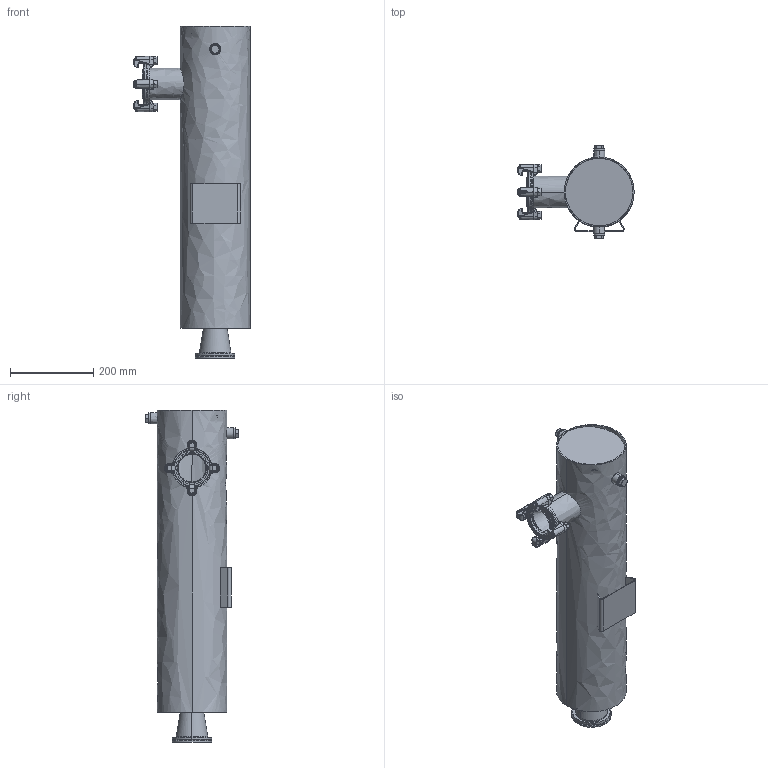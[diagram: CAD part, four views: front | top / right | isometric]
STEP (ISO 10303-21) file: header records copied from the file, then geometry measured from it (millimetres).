
FILE_DESCRIPTION((''),'2;1');
FILE_NAME('130002557_Y19_000_ASM','2015-08-11T',('58667'),('Copyright by Leybold GmbH'),'PRO/ENGINEER BY PARAMETRIC TECHNOLOGY CORPORATION, 2013320','PRO/ENGINEER BY PARAMETRIC TECHNOLOGY CORPORATION, 2013320','');
FILE_SCHEMA(('AUTOMOTIVE_DESIGN { 1 0 10303 214 1 1 1 1 }'));
Length unit declared in the file: millimetre
Products named in the file (8): 130002558_Y19_000; 88703_Z_RING_DN63ISOK; 853004464_PNR_000; 853004465_PNR_000; 853004466_PNR_000; 853004463_PNR_000_AF0_ASM; 853011128_PMD_000_ASM; 130002557_Y19_000_ASM
Assembly tree (10 placements, depth 4):
  130002557_Y19_000_ASM
    130002558_Y19_000
    853011128_PMD_000_ASM
      88703_Z_RING_DN63ISOK
      853004463_PNR_000_AF0_ASM  x4
        853004464_PNR_000
        853004465_PNR_000
        853004466_PNR_000
Bounding box: 280.13 x 225.3 x 800 mm (x, y, z)
Volume: 1538207.1 mm3; surface area: 1040637.7 mm2
Topology: 14 solids, 14 shells, 832 faces, 2083 edges, 1271 vertices
Faces by surface type: plane 224, cylinder 220, bspline 178, cone 72, torus 58, extrusion 56, sphere 24
Entity records: 27275 total; most frequent: CARTESIAN_POINT 16512, ORIENTED_EDGE 1852, DIRECTION 1464, EDGE_CURVE 926, PRESENTATION_STYLE_ASSIGNMENT 699, STYLED_ITEM 699, CURVE_STYLE 695, VERTEX_POINT 587
